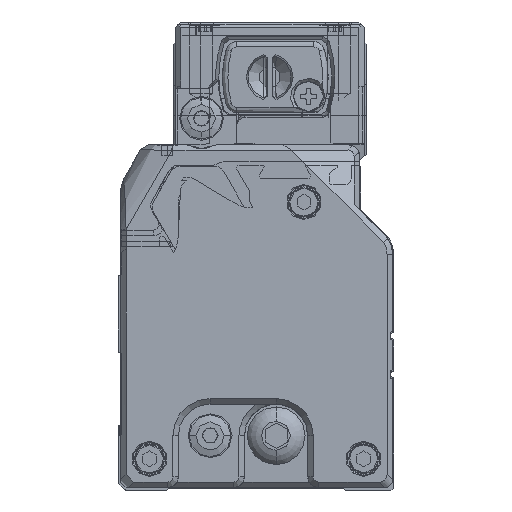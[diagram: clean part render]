
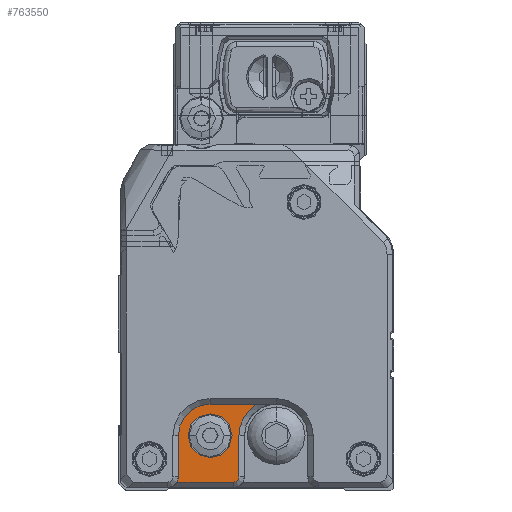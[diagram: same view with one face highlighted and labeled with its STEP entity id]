
A CAD part, left-side view. The second image highlights one B-rep face of the part: STEP entity #763550.
In plain terms, the highlighted planar face has unit normal (-1, 0, 0) as drawn and (1, 0, 0) by its records, which use the part's own axes.
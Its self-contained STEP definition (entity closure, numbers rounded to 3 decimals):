
#762000=CARTESIAN_POINT('',(5264.177,2.462,
3.148));
#762010=DIRECTION('',(-1.,0.,0.));
#762020=DIRECTION('',(0.,1.,0.));
#762030=AXIS2_PLACEMENT_3D('',#762000,#762010,#762020);
#762040=CIRCLE('',#762030,5.75);
#762050=CARTESIAN_POINT('',(5264.177,8.212,
3.148));
#762060=VERTEX_POINT('',#762050);
#762070=CARTESIAN_POINT('',(5264.177,2.462,
-2.602));
#762080=VERTEX_POINT('',#762070);
#762090=EDGE_CURVE('',#762060,#762080,#762040,.T.);
#762500=CARTESIAN_POINT('',(5264.177,8.212,
3.148));
#762510=DIRECTION('',(0.,0.,1.));
#762520=VECTOR('',#762510,1.);
#762530=LINE('',#762500,#762520);
#762540=CARTESIAN_POINT('',(5264.177,8.212,
10.598));
#762550=VERTEX_POINT('',#762540);
#762560=EDGE_CURVE('',#762060,#762550,#762530,.T.);
#762820=CARTESIAN_POINT('',(5264.177,-5.938,
-12.8));
#762830=DIRECTION('',(-1.,0.,0.));
#762840=DIRECTION('',(0.,0.,-1.));
#762850=AXIS2_PLACEMENT_3D('',#762820,#762830,#762840);
#762860=PLANE('',#762850);
#762870=CARTESIAN_POINT('',(5264.177,4.212,
11.598));
#762880=DIRECTION('',(0.,-1.,0.));
#762890=VECTOR('',#762880,1.);
#762900=LINE('',#762870,#762890);
#762910=CARTESIAN_POINT('',(5264.177,8.48,
11.598));
#762920=VERTEX_POINT('',#762910);
#762930=CARTESIAN_POINT('',(5264.177,-1.788,
11.598));
#762940=VERTEX_POINT('',#762930);
#762950=EDGE_CURVE('',#762920,#762940,#762900,.T.);
#762960=ORIENTED_EDGE('',*,*,#762950,.T.);
#762970=CARTESIAN_POINT('',(5264.177,10.212,
10.598));
#762980=DIRECTION('',(-1.,0.,0.));
#762990=DIRECTION('',(0.,1.,0.));
#763000=AXIS2_PLACEMENT_3D('',#762970,#762980,#762990);
#763010=CIRCLE('',#763000,2.);
#763020=EDGE_CURVE('',#762550,#762920,#763010,.T.);
#763030=ORIENTED_EDGE('',*,*,#763020,.T.);
#763040=ORIENTED_EDGE('',*,*,#762560,.T.);
#763050=ORIENTED_EDGE('',*,*,#762090,.F.);
#763060=CARTESIAN_POINT('',(5264.177,-5.888,
-2.602));
#763070=DIRECTION('',(0.,1.,0.));
#763080=VECTOR('',#763070,1.);
#763090=LINE('',#763060,#763080);
#763100=CARTESIAN_POINT('',(5264.177,-6.002,
-2.602));
#763110=VERTEX_POINT('',#763100);
#763120=EDGE_CURVE('',#763110,#762080,#763090,.T.);
#763130=ORIENTED_EDGE('',*,*,#763120,.T.);
#763140=CARTESIAN_POINT('',(5264.177,-9.538,
3.148));
#763150=DIRECTION('',(-1.,0.,0.));
#763160=DIRECTION('',(0.,1.,0.));
#763170=AXIS2_PLACEMENT_3D('',#763140,#763150,#763160);
#763180=CIRCLE('',#763170,6.75);
#763190=CARTESIAN_POINT('',(5264.177,-2.788,
3.148));
#763200=VERTEX_POINT('',#763190);
#763210=EDGE_CURVE('',#763200,#763110,#763180,.T.);
#763220=ORIENTED_EDGE('',*,*,#763210,.T.);
#763230=CARTESIAN_POINT('',(5264.177,-2.788,
6.873));
#763240=DIRECTION('',(0.,0.,-1.));
#763250=VECTOR('',#763240,1.);
#763260=LINE('',#763230,#763250);
#763270=CARTESIAN_POINT('',(5264.177,-2.788,
10.598));
#763280=VERTEX_POINT('',#763270);
#763290=EDGE_CURVE('',#763280,#763200,#763260,.T.);
#763300=ORIENTED_EDGE('',*,*,#763290,.T.);
#763310=CARTESIAN_POINT('',(5264.177,-1.788,
10.598));
#763320=DIRECTION('',(-1.,0.,0.));
#763330=DIRECTION('',(0.,1.,0.));
#763340=AXIS2_PLACEMENT_3D('',#763310,#763320,#763330);
#763350=CIRCLE('',#763340,1.);
#763360=EDGE_CURVE('',#763280,#762940,#763350,.T.);
#763370=ORIENTED_EDGE('',*,*,#763360,.F.);
#763380=EDGE_LOOP('',(#763370,#763300,#763220,#763130,#763050,#763040,
#763030,#762960));
#763390=FACE_OUTER_BOUND('',#763380,.T.);
#763400=CARTESIAN_POINT('',(5264.177,2.462,
3.148));
#763410=DIRECTION('',(-1.,0.,0.));
#763420=DIRECTION('',(0.,0.,-1.));
#763430=AXIS2_PLACEMENT_3D('',#763400,#763410,#763420);
#763440=CIRCLE('',#763430,4.);
#763450=CARTESIAN_POINT('',(5264.177,2.462,
7.148));
#763460=VERTEX_POINT('',#763450);
#763470=CARTESIAN_POINT('',(5264.177,2.462,
-0.852));
#763480=VERTEX_POINT('',#763470);
#763490=EDGE_CURVE('',#763460,#763480,#763440,.T.);
#763500=ORIENTED_EDGE('',*,*,#763490,.T.);
#763510=EDGE_CURVE('',#763480,#763460,#763440,.T.);
#763520=ORIENTED_EDGE('',*,*,#763510,.T.);
#763530=EDGE_LOOP('',(#763520,#763500));
#763540=FACE_BOUND('',#763530,.T.);
#763550=ADVANCED_FACE('',(#763390,#763540),#762860,.F.);
